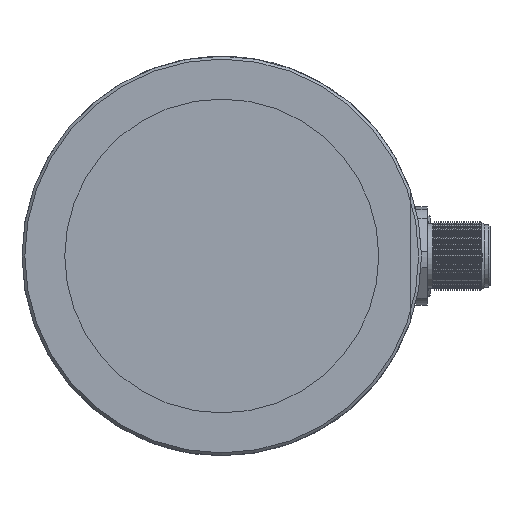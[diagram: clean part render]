
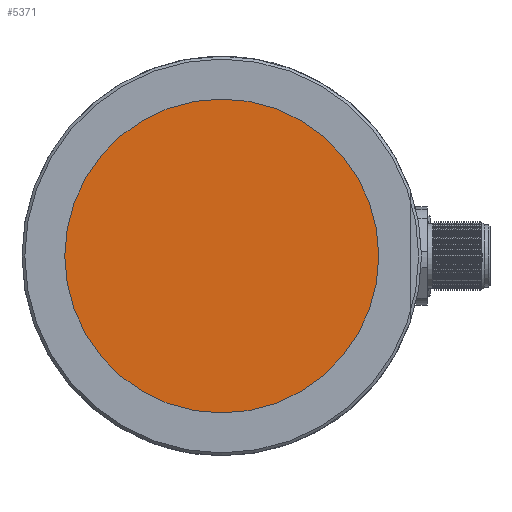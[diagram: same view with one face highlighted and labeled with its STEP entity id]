
A CAD part, left-side view. The second image highlights one B-rep face of the part: STEP entity #5371.
In plain terms, the highlighted planar face has unit normal (-1, 0, 0).
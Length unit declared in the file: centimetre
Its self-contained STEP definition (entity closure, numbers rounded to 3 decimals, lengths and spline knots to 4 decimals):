
#1194=PLANE('',#5775);
#1316=VERTEX_POINT('',#7593);
#1810=CIRCLE('',#5774,2.75);
#2096=EDGE_CURVE('',#1316,#1316,#1810,.T.);
#2855=ORIENTED_EDGE('',*,*,#2096,.T.);
#4343=EDGE_LOOP('',(#2855));
#4864=FACE_BOUND('',#4343,.T.);
#5371=ADVANCED_FACE('',(#4864),#1194,.F.);
#5774=AXIS2_PLACEMENT_3D('',#7592,#6366,#6367);
#5775=AXIS2_PLACEMENT_3D('',#7594,#6368,$);
#6366=DIRECTION('',(-1.,0.,0.));
#6367=DIRECTION('',(0.,0.,-2.75));
#6368=DIRECTION('',(1.,0.,0.));
#7592=CARTESIAN_POINT('',(-4.9,0.,0.));
#7593=CARTESIAN_POINT('',(-4.9,0.,-2.75));
#7594=CARTESIAN_POINT('',(-4.9,0.,0.));
